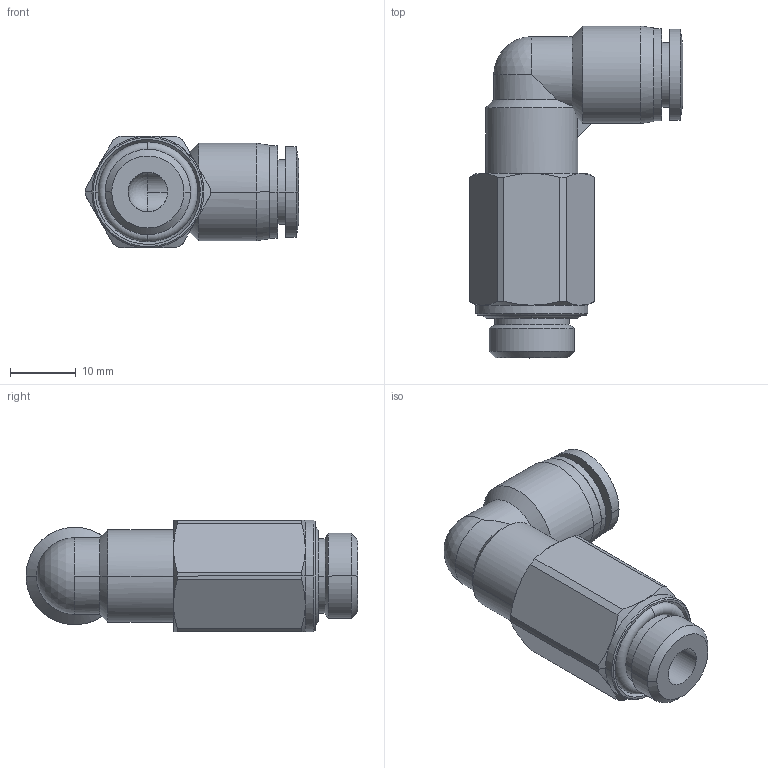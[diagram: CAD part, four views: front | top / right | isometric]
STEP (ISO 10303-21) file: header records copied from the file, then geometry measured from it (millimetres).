
FILE_DESCRIPTION (( 'STEP AP203' ), '1' );
FILE_NAME ('FLL08-02.STEP', '2020-05-13T11:10:52', ( '' ), ( '' ), 'SwSTEP 2.0', 'SolidWorks 2019', '' );
FILE_SCHEMA (( 'CONFIG_CONTROL_DESIGN' ));
Length unit declared in the file: millimetre
Products named in the file (1): FLL08-02
Bounding box: 32.4 x 50.4 x 17 mm (x, y, z)
Surface area: 5353.4 mm2 (no closed solid volume)
Topology: 0 solids, 4 shells, 94 faces, 227 edges, 141 vertices
Faces by surface type: cylinder 35, cone 32, plane 19, torus 4, bspline 2, sphere 2
Entity records: 4575 total; most frequent: CARTESIAN_POINT 2707, ORIENTED_EDGE 430, DIRECTION 239, EDGE_CURVE 223, B_SPLINE_CURVE_WITH_KNOTS 168, VERTEX_POINT 139, EDGE_LOOP 104, AXIS2_PLACEMENT_3D 97
